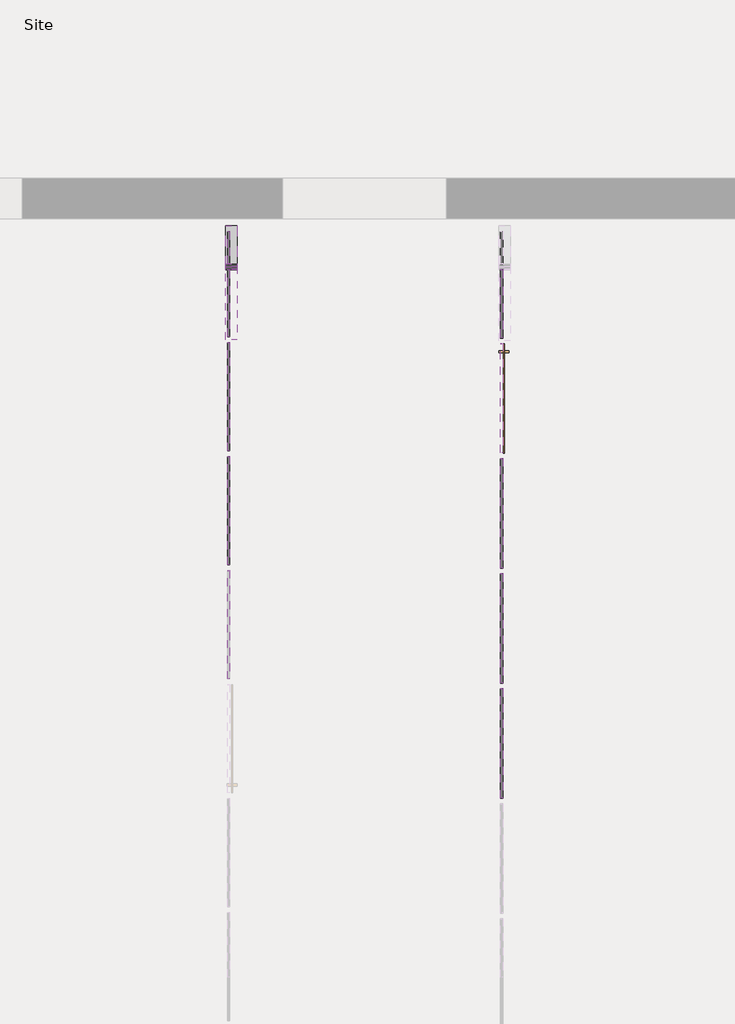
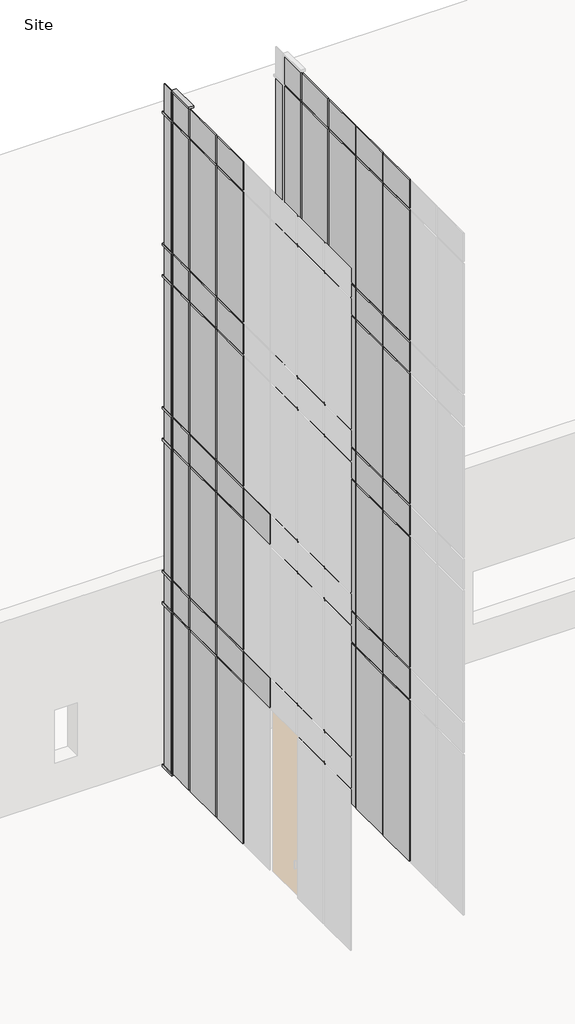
# One storey, part 3 of 4: 80 plates, 17 members, 1 door.
"""IFC4 building model written with IfcOpenShell, lengths in millimetres."""

from ifc_helpers import new_model, si_unit, origin, place, context, project, spatial, transform, mapped, element, save
from components import door_curtain_wall_single_glass_door_curtain_wall_single_55bd0595, member_5d07894b, member_3ba9e939, member_ad567e07, member_7db1855a, member_7227ddca, member_ffd4c858, member_15823cb3, system_panel_glazed_26f8e022, system_panel_glazed_31d10065, system_panel_glazed_ccbaed92, system_panel_glazed_7dca4fa5, system_panel_glazed_2b3d2baa, system_panel_glazed_7e289b92, system_panel_glazed_8fe7ab7d, system_panel_glazed_4fa5cbd7, system_panel_glazed_636dec6d, system_panel_glazed_99ba6c15, system_panel_glazed_35bb093a, system_panel_glazed_f4d1d7f7, system_panel_glazed_6e853645, system_panel_glazed_5cc7900c, system_panel_glazed_032e4dab, system_panel_metal_panel_947f48db, system_panel_metal_panel_e2dbf0ce, system_panel_metal_panel_dcd9a435, system_panel_metal_panel_ab4ce9b6, system_panel_glazed_cc98a0ec

model = new_model("IFC4")

# Units and contexts
model_context = context("Model", 3, world=origin())
ifc_project = project(units=[si_unit("LENGTHUNIT", "METRE", prefix="MILLI")], contexts=[model_context])

# Site, building, storey
site = spatial("IfcSite", under=ifc_project)
building = spatial("IfcBuilding", under=site)
storey = spatial("IfcBuildingStorey", under=building, Name="Site", Elevation=-152.4)

# Door
placement = place(None, origin())
door_curtain_wall_single_glass_door_curtain_wall_single_shape = door_curtain_wall_single_glass_door_curtain_wall_single_55bd0595(model_context)
element("IfcDoor", 1, ObjectType="Door-Curtain-Wall-Single-Glass : Door-Curtain-Wall-Single-Glass", at=placement, inside=storey, context=model_context, shape_type="MappedRepresentation", body=[
    mapped(door_curtain_wall_single_glass_door_curtain_wall_single_shape, transform((10878.8276119, 36162.461889, -88.9), x_axis=(0.0, -1.0, 0.0), y_axis=(1.0, 0.0, 0.0), z_axis=(0.0, 0.0, 1.0))),
])

# Members
member_shape = member_5d07894b(model_context)
element("IfcMember", 2, ObjectType="Rectangular Mullion1 : 2.5\" x 5\" rectangular", at=placement, inside=storey, context=model_context, shape_type="MappedRepresentation", body=[
    mapped(member_shape, transform((7830.8276119, 37629.311889, -88.9), x_axis=(0.0, 1.0, 0.0), y_axis=(1.0, 0.0, 0.0), z_axis=(0.0, 0.0, -1.0))),
])
member_2_shape = member_3ba9e939(model_context)
element("IfcMember", 3, ObjectType="Rectangular Mullion1 : 2.5\" x 5\" rectangular", at=placement, inside=storey, context=model_context, shape_type="MappedRepresentation", body=[
    mapped(member_2_shape, transform((7830.8276119, 37629.311889, 14966.95), x_axis=(0.0, 1.0, 0.0), y_axis=(1.0, 0.0, 0.0), z_axis=(0.0, 0.0, -1.0))),
])
element("IfcMember", 4, ObjectType="Rectangular Mullion1 : 2.5\" x 5\" rectangular", at=placement, inside=storey, context=model_context, shape_type="MappedRepresentation", body=[
    mapped(member_2_shape, transform((7830.8276119, 37629.311889, 10242.55), x_axis=(0.0, 1.0, 0.0), y_axis=(1.0, 0.0, 0.0), z_axis=(0.0, 0.0, -1.0))),
])
element("IfcMember", 5, ObjectType="Rectangular Mullion1 : 2.5\" x 5\" rectangular", at=placement, inside=storey, context=model_context, shape_type="MappedRepresentation", body=[
    mapped(member_2_shape, transform((7830.8276119, 37629.311889, 5518.15), x_axis=(0.0, 1.0, 0.0), y_axis=(1.0, 0.0, 0.0), z_axis=(0.0, 0.0, -1.0))),
])
member_3_shape = member_ad567e07(model_context)
element("IfcMember", 6, ObjectType="Rectangular Mullion1 : 2.5\" x 5\" rectangular", at=placement, inside=storey, context=model_context, shape_type="MappedRepresentation", body=[
    mapped(member_3_shape, transform((7830.8276119, 37629.311889, 18776.95), x_axis=(0.0, 1.0, 0.0), y_axis=(1.0, 0.0, 0.0), z_axis=(0.0, 0.0, -1.0))),
])
member_4_shape = member_7db1855a(model_context)
element("IfcMember", 7, ObjectType="Rectangular Mullion1 : 2.5\" x 5\" rectangular", at=placement, inside=storey, context=model_context, shape_type="MappedRepresentation", body=[
    mapped(member_4_shape, transform((7830.8276119, 37629.311889, 4603.75), x_axis=(0.0, 1.0, 0.0), y_axis=(1.0, 0.0, 0.0), z_axis=(0.0, 0.0, -1.0))),
])
element("IfcMember", 8, ObjectType="Rectangular Mullion1 : 2.5\" x 5\" rectangular", at=placement, inside=storey, context=model_context, shape_type="MappedRepresentation", body=[
    mapped(member_4_shape, transform((7830.8276119, 37629.311889, 9328.15), x_axis=(0.0, 1.0, 0.0), y_axis=(1.0, 0.0, 0.0), z_axis=(0.0, 0.0, -1.0))),
])
element("IfcMember", 9, ObjectType="Rectangular Mullion1 : 2.5\" x 5\" rectangular", at=placement, inside=storey, context=model_context, shape_type="MappedRepresentation", body=[
    mapped(member_4_shape, transform((7830.8276119, 37629.311889, 14052.55), x_axis=(0.0, 1.0, 0.0), y_axis=(1.0, 0.0, 0.0), z_axis=(0.0, 0.0, -1.0))),
])
member_5_shape = member_7227ddca(model_context)
element("IfcMember", 10, ObjectType="Rectangular Mullion1 : 2.5\" x 5\" rectangular", at=placement, inside=storey, context=model_context, shape_type="MappedRepresentation", body=[
    mapped(member_5_shape, transform((7830.8276119, 37629.311889, 19659.6), x_axis=(0.0, 0.0, 1.0), y_axis=(1.0, 0.0, 0.0), z_axis=(0.0, 1.0, 0.0))),
])
member_6_shape = member_ffd4c858(model_context)
element("IfcMember", 11, ObjectType="Rectangular Mullion1 : 2.5\" x 5\" rectangular", at=placement, inside=storey, context=model_context, shape_type="MappedRepresentation", body=[
    mapped(member_6_shape, transform((7830.8276119, 38086.511889, 5486.4), x_axis=(0.0, 0.0, 1.0), y_axis=(1.0, 0.0, 0.0), z_axis=(0.0, 1.0, 0.0))),
])
element("IfcMember", 12, ObjectType="Rectangular Mullion1 : 2.5\" x 5\" rectangular", at=placement, inside=storey, context=model_context, shape_type="MappedRepresentation", body=[
    mapped(member_6_shape, transform((7830.8276119, 38086.511889, 10210.8), x_axis=(0.0, 0.0, 1.0), y_axis=(1.0, 0.0, 0.0), z_axis=(0.0, 1.0, 0.0))),
])
element("IfcMember", 13, ObjectType="Rectangular Mullion1 : 2.5\" x 5\" rectangular", at=placement, inside=storey, context=model_context, shape_type="MappedRepresentation", body=[
    mapped(member_6_shape, transform((7830.8276119, 38086.511889, 14935.2), x_axis=(0.0, 0.0, 1.0), y_axis=(1.0, 0.0, 0.0), z_axis=(0.0, 1.0, 0.0))),
])
element("IfcMember", 14, ObjectType="Rectangular Mullion1 : 2.5\" x 5\" rectangular", at=placement, inside=storey, context=model_context, shape_type="MappedRepresentation", body=[
    mapped(member_6_shape, transform((7830.8276119, 38086.511889, 18745.2), x_axis=(0.0, 0.0, 1.0), y_axis=(1.0, 0.0, 0.0), z_axis=(0.0, 1.0, 0.0))),
])
element("IfcMember", 15, ObjectType="Rectangular Mullion1 : 2.5\" x 5\" rectangular", at=placement, inside=storey, context=model_context, shape_type="MappedRepresentation", body=[
    mapped(member_6_shape, transform((7830.8276119, 38086.511889, 14020.8), x_axis=(0.0, 0.0, 1.0), y_axis=(1.0, 0.0, 0.0), z_axis=(0.0, 1.0, 0.0))),
])
element("IfcMember", 16, ObjectType="Rectangular Mullion1 : 2.5\" x 5\" rectangular", at=placement, inside=storey, context=model_context, shape_type="MappedRepresentation", body=[
    mapped(member_6_shape, transform((7830.8276119, 38086.511889, 9296.4), x_axis=(0.0, 0.0, 1.0), y_axis=(1.0, 0.0, 0.0), z_axis=(0.0, 1.0, 0.0))),
])
element("IfcMember", 17, ObjectType="Rectangular Mullion1 : 2.5\" x 5\" rectangular", at=placement, inside=storey, context=model_context, shape_type="MappedRepresentation", body=[
    mapped(member_6_shape, transform((7830.8276119, 38086.511889, 4572.0), x_axis=(0.0, 0.0, 1.0), y_axis=(1.0, 0.0, 0.0), z_axis=(0.0, 1.0, 0.0))),
])
member_7_shape = member_15823cb3(model_context)
element("IfcMember", 18, ObjectType="Rectangular Mullion1 : 2.5\" x 5\" rectangular", at=placement, inside=storey, context=model_context, shape_type="MappedRepresentation", body=[
    mapped(member_7_shape, transform((7830.8276119, 37629.311889, -152.4), x_axis=(0.0, 0.0, -1.0), y_axis=(1.0, 0.0, 0.0), z_axis=(0.0, -1.0, 0.0))),
])

# Plates
system_panel_glazed_shape = system_panel_glazed_26f8e022(model_context)
element("IfcPlate", 19, ObjectType="System Panel : Glazed", at=placement, inside=storey, context=model_context, shape_type="MappedRepresentation", body=[
    mapped(system_panel_glazed_shape, transform((7830.8276119, 36180.0134434, -88.9), x_axis=(0.0, 1.0, 0.0), y_axis=(-1.0, 0.0, 0.0), z_axis=(0.0, 0.0, 1.0))),
])
element("IfcPlate", 20, ObjectType="System Panel : Glazed", at=placement, inside=storey, context=model_context, shape_type="MappedRepresentation", body=[
    mapped(system_panel_glazed_shape, transform((7830.8276119, 34909.0144797, -88.9), x_axis=(0.0, 1.0, 0.0), y_axis=(-1.0, 0.0, 0.0), z_axis=(0.0, 0.0, 1.0))),
])
system_panel_glazed_2_shape = system_panel_glazed_31d10065(model_context)
element("IfcPlate", 21, ObjectType="System Panel : Glazed", at=placement, inside=storey, context=model_context, shape_type="MappedRepresentation", body=[
    mapped(system_panel_glazed_2_shape, transform((10878.8276119, 33597.061889, -88.9), x_axis=(0.0, 1.0, 0.0), y_axis=(-1.0, 0.0, 0.0), z_axis=(0.0, 0.0, 1.0))),
])
element("IfcPlate", 22, ObjectType="System Panel : Glazed", at=placement, inside=storey, context=model_context, shape_type="MappedRepresentation", body=[
    mapped(system_panel_glazed_2_shape, transform((10878.8276119, 32314.361889, -88.9), x_axis=(0.0, 1.0, 0.0), y_axis=(-1.0, 0.0, 0.0), z_axis=(0.0, 0.0, 1.0))),
])
element("IfcPlate", 23, ObjectType="System Panel : Glazed", at=placement, inside=storey, context=model_context, shape_type="MappedRepresentation", body=[
    mapped(system_panel_glazed_2_shape, transform((10878.8276119, 34879.761889, -88.9), x_axis=(0.0, 1.0, 0.0), y_axis=(-1.0, 0.0, 0.0), z_axis=(0.0, 0.0, 1.0))),
])
system_panel_glazed_3_shape = system_panel_glazed_ccbaed92(model_context)
element("IfcPlate", 24, ObjectType="System Panel : Glazed", at=placement, inside=storey, context=model_context, shape_type="MappedRepresentation", body=[
    mapped(system_panel_glazed_3_shape, transform((7830.8276119, 37222.4124071, -88.9), x_axis=(0.0, 1.0, 0.0), y_axis=(-1.0, 0.0, 0.0), z_axis=(0.0, 0.0, 1.0))),
])
system_panel_glazed_4_shape = system_panel_glazed_7dca4fa5(model_context)
element("IfcPlate", 25, ObjectType="System Panel : Glazed", at=placement, inside=storey, context=model_context, shape_type="MappedRepresentation", body=[
    mapped(system_panel_glazed_4_shape, transform((10878.8276119, 37216.561889, -88.9), x_axis=(0.0, 1.0, 0.0), y_axis=(-1.0, 0.0, 0.0), z_axis=(0.0, 0.0, 1.0))),
])
system_panel_glazed_5_shape = system_panel_glazed_2b3d2baa(model_context)
element("IfcPlate", 26, ObjectType="System Panel : Glazed", at=placement, inside=storey, context=model_context, shape_type="MappedRepresentation", body=[
    mapped(system_panel_glazed_5_shape, transform((10878.8276119, 32314.361889, 14966.95), x_axis=(0.0, 1.0, 0.0), y_axis=(-1.0, 0.0, 0.0), z_axis=(0.0, 0.0, 1.0))),
])
element("IfcPlate", 27, ObjectType="System Panel : Glazed", at=placement, inside=storey, context=model_context, shape_type="MappedRepresentation", body=[
    mapped(system_panel_glazed_5_shape, transform((10878.8276119, 33597.061889, 14966.95), x_axis=(0.0, 1.0, 0.0), y_axis=(-1.0, 0.0, 0.0), z_axis=(0.0, 0.0, 1.0))),
])
element("IfcPlate", 28, ObjectType="System Panel : Glazed", at=placement, inside=storey, context=model_context, shape_type="MappedRepresentation", body=[
    mapped(system_panel_glazed_5_shape, transform((10878.8276119, 34879.761889, 14966.95), x_axis=(0.0, 1.0, 0.0), y_axis=(-1.0, 0.0, 0.0), z_axis=(0.0, 0.0, 1.0))),
])
element("IfcPlate", 29, ObjectType="System Panel : Glazed", at=placement, inside=storey, context=model_context, shape_type="MappedRepresentation", body=[
    mapped(system_panel_glazed_5_shape, transform((10878.8276119, 36162.461889, 14966.95), x_axis=(0.0, 1.0, 0.0), y_axis=(-1.0, 0.0, 0.0), z_axis=(0.0, 0.0, 1.0))),
])
element("IfcPlate", 30, ObjectType="System Panel : Glazed", at=placement, inside=storey, context=model_context, shape_type="MappedRepresentation", body=[
    mapped(system_panel_glazed_5_shape, transform((10878.8276119, 32314.361889, 10242.55), x_axis=(0.0, 1.0, 0.0), y_axis=(-1.0, 0.0, 0.0), z_axis=(0.0, 0.0, 1.0))),
])
element("IfcPlate", 31, ObjectType="System Panel : Glazed", at=placement, inside=storey, context=model_context, shape_type="MappedRepresentation", body=[
    mapped(system_panel_glazed_5_shape, transform((10878.8276119, 33597.061889, 10242.55), x_axis=(0.0, 1.0, 0.0), y_axis=(-1.0, 0.0, 0.0), z_axis=(0.0, 0.0, 1.0))),
])
element("IfcPlate", 32, ObjectType="System Panel : Glazed", at=placement, inside=storey, context=model_context, shape_type="MappedRepresentation", body=[
    mapped(system_panel_glazed_5_shape, transform((10878.8276119, 34879.761889, 10242.55), x_axis=(0.0, 1.0, 0.0), y_axis=(-1.0, 0.0, 0.0), z_axis=(0.0, 0.0, 1.0))),
])
element("IfcPlate", 33, ObjectType="System Panel : Glazed", at=placement, inside=storey, context=model_context, shape_type="MappedRepresentation", body=[
    mapped(system_panel_glazed_5_shape, transform((10878.8276119, 36162.461889, 10242.55), x_axis=(0.0, 1.0, 0.0), y_axis=(-1.0, 0.0, 0.0), z_axis=(0.0, 0.0, 1.0))),
])
element("IfcPlate", 34, ObjectType="System Panel : Glazed", at=placement, inside=storey, context=model_context, shape_type="MappedRepresentation", body=[
    mapped(system_panel_glazed_5_shape, transform((10878.8276119, 32314.361889, 5518.15), x_axis=(0.0, 1.0, 0.0), y_axis=(-1.0, 0.0, 0.0), z_axis=(0.0, 0.0, 1.0))),
])
element("IfcPlate", 35, ObjectType="System Panel : Glazed", at=placement, inside=storey, context=model_context, shape_type="MappedRepresentation", body=[
    mapped(system_panel_glazed_5_shape, transform((10878.8276119, 33597.061889, 5518.15), x_axis=(0.0, 1.0, 0.0), y_axis=(-1.0, 0.0, 0.0), z_axis=(0.0, 0.0, 1.0))),
])
element("IfcPlate", 36, ObjectType="System Panel : Glazed", at=placement, inside=storey, context=model_context, shape_type="MappedRepresentation", body=[
    mapped(system_panel_glazed_5_shape, transform((10878.8276119, 34879.761889, 5518.15), x_axis=(0.0, 1.0, 0.0), y_axis=(-1.0, 0.0, 0.0), z_axis=(0.0, 0.0, 1.0))),
])
element("IfcPlate", 37, ObjectType="System Panel : Glazed", at=placement, inside=storey, context=model_context, shape_type="MappedRepresentation", body=[
    mapped(system_panel_glazed_5_shape, transform((10878.8276119, 36162.461889, 5518.15), x_axis=(0.0, 1.0, 0.0), y_axis=(-1.0, 0.0, 0.0), z_axis=(0.0, 0.0, 1.0))),
])
system_panel_glazed_6_shape = system_panel_glazed_7e289b92(model_context)
element("IfcPlate", 38, ObjectType="System Panel : Glazed", at=placement, inside=storey, context=model_context, shape_type="MappedRepresentation", body=[
    mapped(system_panel_glazed_6_shape, transform((10878.8276119, 37216.561889, 14966.95), x_axis=(0.0, 1.0, 0.0), y_axis=(-1.0, 0.0, 0.0), z_axis=(0.0, 0.0, 1.0))),
])
element("IfcPlate", 39, ObjectType="System Panel : Glazed", at=placement, inside=storey, context=model_context, shape_type="MappedRepresentation", body=[
    mapped(system_panel_glazed_6_shape, transform((10878.8276119, 37216.561889, 10242.55), x_axis=(0.0, 1.0, 0.0), y_axis=(-1.0, 0.0, 0.0), z_axis=(0.0, 0.0, 1.0))),
])
element("IfcPlate", 40, ObjectType="System Panel : Glazed", at=placement, inside=storey, context=model_context, shape_type="MappedRepresentation", body=[
    mapped(system_panel_glazed_6_shape, transform((10878.8276119, 37216.561889, 5518.15), x_axis=(0.0, 1.0, 0.0), y_axis=(-1.0, 0.0, 0.0), z_axis=(0.0, 0.0, 1.0))),
])
system_panel_glazed_7_shape = system_panel_glazed_8fe7ab7d(model_context)
element("IfcPlate", 41, ObjectType="System Panel : Glazed", at=placement, inside=storey, context=model_context, shape_type="MappedRepresentation", body=[
    mapped(system_panel_glazed_7_shape, transform((10878.8276119, 32314.361889, 9328.15), x_axis=(0.0, 1.0, 0.0), y_axis=(-1.0, 0.0, 0.0), z_axis=(0.0, 0.0, 1.0))),
])
element("IfcPlate", 42, ObjectType="System Panel : Glazed", at=placement, inside=storey, context=model_context, shape_type="MappedRepresentation", body=[
    mapped(system_panel_glazed_7_shape, transform((10878.8276119, 33597.061889, 9328.15), x_axis=(0.0, 1.0, 0.0), y_axis=(-1.0, 0.0, 0.0), z_axis=(0.0, 0.0, 1.0))),
])
element("IfcPlate", 43, ObjectType="System Panel : Glazed", at=placement, inside=storey, context=model_context, shape_type="MappedRepresentation", body=[
    mapped(system_panel_glazed_7_shape, transform((10878.8276119, 34879.761889, 9328.15), x_axis=(0.0, 1.0, 0.0), y_axis=(-1.0, 0.0, 0.0), z_axis=(0.0, 0.0, 1.0))),
])
element("IfcPlate", 44, ObjectType="System Panel : Glazed", at=placement, inside=storey, context=model_context, shape_type="MappedRepresentation", body=[
    mapped(system_panel_glazed_7_shape, transform((10878.8276119, 36162.461889, 9328.15), x_axis=(0.0, 1.0, 0.0), y_axis=(-1.0, 0.0, 0.0), z_axis=(0.0, 0.0, 1.0))),
])
element("IfcPlate", 45, ObjectType="System Panel : Glazed", at=placement, inside=storey, context=model_context, shape_type="MappedRepresentation", body=[
    mapped(system_panel_glazed_7_shape, transform((10878.8276119, 32314.361889, 4603.75), x_axis=(0.0, 1.0, 0.0), y_axis=(-1.0, 0.0, 0.0), z_axis=(0.0, 0.0, 1.0))),
])
element("IfcPlate", 46, ObjectType="System Panel : Glazed", at=placement, inside=storey, context=model_context, shape_type="MappedRepresentation", body=[
    mapped(system_panel_glazed_7_shape, transform((10878.8276119, 33597.061889, 4603.75), x_axis=(0.0, 1.0, 0.0), y_axis=(-1.0, 0.0, 0.0), z_axis=(0.0, 0.0, 1.0))),
])
element("IfcPlate", 47, ObjectType="System Panel : Glazed", at=placement, inside=storey, context=model_context, shape_type="MappedRepresentation", body=[
    mapped(system_panel_glazed_7_shape, transform((10878.8276119, 34879.761889, 4603.75), x_axis=(0.0, 1.0, 0.0), y_axis=(-1.0, 0.0, 0.0), z_axis=(0.0, 0.0, 1.0))),
])
element("IfcPlate", 48, ObjectType="System Panel : Glazed", at=placement, inside=storey, context=model_context, shape_type="MappedRepresentation", body=[
    mapped(system_panel_glazed_7_shape, transform((10878.8276119, 36162.461889, 4603.75), x_axis=(0.0, 1.0, 0.0), y_axis=(-1.0, 0.0, 0.0), z_axis=(0.0, 0.0, 1.0))),
])
element("IfcPlate", 49, ObjectType="System Panel : Glazed", at=placement, inside=storey, context=model_context, shape_type="MappedRepresentation", body=[
    mapped(system_panel_glazed_7_shape, transform((10878.8276119, 32314.361889, 14052.55), x_axis=(0.0, 1.0, 0.0), y_axis=(-1.0, 0.0, 0.0), z_axis=(0.0, 0.0, 1.0))),
])
element("IfcPlate", 50, ObjectType="System Panel : Glazed", at=placement, inside=storey, context=model_context, shape_type="MappedRepresentation", body=[
    mapped(system_panel_glazed_7_shape, transform((10878.8276119, 33597.061889, 14052.55), x_axis=(0.0, 1.0, 0.0), y_axis=(-1.0, 0.0, 0.0), z_axis=(0.0, 0.0, 1.0))),
])
element("IfcPlate", 51, ObjectType="System Panel : Glazed", at=placement, inside=storey, context=model_context, shape_type="MappedRepresentation", body=[
    mapped(system_panel_glazed_7_shape, transform((10878.8276119, 34879.761889, 14052.55), x_axis=(0.0, 1.0, 0.0), y_axis=(-1.0, 0.0, 0.0), z_axis=(0.0, 0.0, 1.0))),
])
element("IfcPlate", 52, ObjectType="System Panel : Glazed", at=placement, inside=storey, context=model_context, shape_type="MappedRepresentation", body=[
    mapped(system_panel_glazed_7_shape, transform((10878.8276119, 36162.461889, 14052.55), x_axis=(0.0, 1.0, 0.0), y_axis=(-1.0, 0.0, 0.0), z_axis=(0.0, 0.0, 1.0))),
])
system_panel_glazed_8_shape = system_panel_glazed_4fa5cbd7(model_context)
element("IfcPlate", 53, ObjectType="System Panel : Glazed", at=placement, inside=storey, context=model_context, shape_type="MappedRepresentation", body=[
    mapped(system_panel_glazed_8_shape, transform((10878.8276119, 37216.561889, 9328.15), x_axis=(0.0, 1.0, 0.0), y_axis=(-1.0, 0.0, 0.0), z_axis=(0.0, 0.0, 1.0))),
])
element("IfcPlate", 54, ObjectType="System Panel : Glazed", at=placement, inside=storey, context=model_context, shape_type="MappedRepresentation", body=[
    mapped(system_panel_glazed_8_shape, transform((10878.8276119, 37216.561889, 4603.75), x_axis=(0.0, 1.0, 0.0), y_axis=(-1.0, 0.0, 0.0), z_axis=(0.0, 0.0, 1.0))),
])
element("IfcPlate", 55, ObjectType="System Panel : Glazed", at=placement, inside=storey, context=model_context, shape_type="MappedRepresentation", body=[
    mapped(system_panel_glazed_8_shape, transform((10878.8276119, 37216.561889, 14052.55), x_axis=(0.0, 1.0, 0.0), y_axis=(-1.0, 0.0, 0.0), z_axis=(0.0, 0.0, 1.0))),
])
system_panel_glazed_9_shape = system_panel_glazed_636dec6d(model_context)
element("IfcPlate", 56, ObjectType="System Panel : Glazed", at=placement, inside=storey, context=model_context, shape_type="MappedRepresentation", body=[
    mapped(system_panel_glazed_9_shape, transform((10878.8276119, 32314.361889, 18776.95), x_axis=(0.0, 1.0, 0.0), y_axis=(-1.0, 0.0, 0.0), z_axis=(0.0, 0.0, 1.0))),
])
element("IfcPlate", 57, ObjectType="System Panel : Glazed", at=placement, inside=storey, context=model_context, shape_type="MappedRepresentation", body=[
    mapped(system_panel_glazed_9_shape, transform((10878.8276119, 33597.061889, 18776.95), x_axis=(0.0, 1.0, 0.0), y_axis=(-1.0, 0.0, 0.0), z_axis=(0.0, 0.0, 1.0))),
])
element("IfcPlate", 58, ObjectType="System Panel : Glazed", at=placement, inside=storey, context=model_context, shape_type="MappedRepresentation", body=[
    mapped(system_panel_glazed_9_shape, transform((10878.8276119, 34879.761889, 18776.95), x_axis=(0.0, 1.0, 0.0), y_axis=(-1.0, 0.0, 0.0), z_axis=(0.0, 0.0, 1.0))),
])
element("IfcPlate", 59, ObjectType="System Panel : Glazed", at=placement, inside=storey, context=model_context, shape_type="MappedRepresentation", body=[
    mapped(system_panel_glazed_9_shape, transform((10878.8276119, 36162.461889, 18776.95), x_axis=(0.0, 1.0, 0.0), y_axis=(-1.0, 0.0, 0.0), z_axis=(0.0, 0.0, 1.0))),
])
system_panel_glazed_10_shape = system_panel_glazed_99ba6c15(model_context)
element("IfcPlate", 60, ObjectType="System Panel : Glazed", at=placement, inside=storey, context=model_context, shape_type="MappedRepresentation", body=[
    mapped(system_panel_glazed_10_shape, transform((10878.8276119, 37216.561889, 18776.95), x_axis=(0.0, 1.0, 0.0), y_axis=(-1.0, 0.0, 0.0), z_axis=(0.0, 0.0, 1.0))),
])
system_panel_glazed_11_shape = system_panel_glazed_35bb093a(model_context)
element("IfcPlate", 61, ObjectType="System Panel : Glazed", at=placement, inside=storey, context=model_context, shape_type="MappedRepresentation", body=[
    mapped(system_panel_glazed_11_shape, transform((7830.8276119, 34909.0144797, 5518.15), x_axis=(0.0, 1.0, 0.0), y_axis=(-1.0, 0.0, 0.0), z_axis=(0.0, 0.0, 1.0))),
])
element("IfcPlate", 62, ObjectType="System Panel : Glazed", at=placement, inside=storey, context=model_context, shape_type="MappedRepresentation", body=[
    mapped(system_panel_glazed_11_shape, transform((7830.8276119, 36180.0134434, 5518.15), x_axis=(0.0, 1.0, 0.0), y_axis=(-1.0, 0.0, 0.0), z_axis=(0.0, 0.0, 1.0))),
])
element("IfcPlate", 63, ObjectType="System Panel : Glazed", at=placement, inside=storey, context=model_context, shape_type="MappedRepresentation", body=[
    mapped(system_panel_glazed_11_shape, transform((7830.8276119, 34909.0144797, 10242.55), x_axis=(0.0, 1.0, 0.0), y_axis=(-1.0, 0.0, 0.0), z_axis=(0.0, 0.0, 1.0))),
])
element("IfcPlate", 64, ObjectType="System Panel : Glazed", at=placement, inside=storey, context=model_context, shape_type="MappedRepresentation", body=[
    mapped(system_panel_glazed_11_shape, transform((7830.8276119, 36180.0134434, 10242.55), x_axis=(0.0, 1.0, 0.0), y_axis=(-1.0, 0.0, 0.0), z_axis=(0.0, 0.0, 1.0))),
])
element("IfcPlate", 65, ObjectType="System Panel : Glazed", at=placement, inside=storey, context=model_context, shape_type="MappedRepresentation", body=[
    mapped(system_panel_glazed_11_shape, transform((7830.8276119, 34909.0144797, 14966.95), x_axis=(0.0, 1.0, 0.0), y_axis=(-1.0, 0.0, 0.0), z_axis=(0.0, 0.0, 1.0))),
])
element("IfcPlate", 66, ObjectType="System Panel : Glazed", at=placement, inside=storey, context=model_context, shape_type="MappedRepresentation", body=[
    mapped(system_panel_glazed_11_shape, transform((7830.8276119, 36180.0134434, 14966.95), x_axis=(0.0, 1.0, 0.0), y_axis=(-1.0, 0.0, 0.0), z_axis=(0.0, 0.0, 1.0))),
])
system_panel_glazed_12_shape = system_panel_glazed_f4d1d7f7(model_context)
element("IfcPlate", 67, ObjectType="System Panel : Glazed", at=placement, inside=storey, context=model_context, shape_type="MappedRepresentation", body=[
    mapped(system_panel_glazed_12_shape, transform((7830.8276119, 37222.4124071, 5518.15), x_axis=(0.0, 1.0, 0.0), y_axis=(-1.0, 0.0, 0.0), z_axis=(0.0, 0.0, 1.0))),
])
element("IfcPlate", 68, ObjectType="System Panel : Glazed", at=placement, inside=storey, context=model_context, shape_type="MappedRepresentation", body=[
    mapped(system_panel_glazed_12_shape, transform((7830.8276119, 37222.4124071, 10242.55), x_axis=(0.0, 1.0, 0.0), y_axis=(-1.0, 0.0, 0.0), z_axis=(0.0, 0.0, 1.0))),
])
element("IfcPlate", 69, ObjectType="System Panel : Glazed", at=placement, inside=storey, context=model_context, shape_type="MappedRepresentation", body=[
    mapped(system_panel_glazed_12_shape, transform((7830.8276119, 37222.4124071, 14966.95), x_axis=(0.0, 1.0, 0.0), y_axis=(-1.0, 0.0, 0.0), z_axis=(0.0, 0.0, 1.0))),
])
system_panel_glazed_13_shape = system_panel_glazed_6e853645(model_context)
element("IfcPlate", 70, ObjectType="System Panel : Glazed", at=placement, inside=storey, context=model_context, shape_type="MappedRepresentation", body=[
    mapped(system_panel_glazed_13_shape, transform((10878.8276119, 37842.036889, -88.9), x_axis=(0.0, 1.0, 0.0), y_axis=(-1.0, 0.0, 0.0), z_axis=(0.0, 0.0, 1.0))),
])
system_panel_glazed_14_shape = system_panel_glazed_5cc7900c(model_context)
element("IfcPlate", 71, ObjectType="System Panel : Glazed", at=placement, inside=storey, context=model_context, shape_type="MappedRepresentation", body=[
    mapped(system_panel_glazed_14_shape, transform((10878.8276119, 37842.036889, 4603.75), x_axis=(0.0, 1.0, 0.0), y_axis=(-1.0, 0.0, 0.0), z_axis=(0.0, 0.0, 1.0))),
])
element("IfcPlate", 72, ObjectType="System Panel : Glazed", at=placement, inside=storey, context=model_context, shape_type="MappedRepresentation", body=[
    mapped(system_panel_glazed_14_shape, transform((10878.8276119, 37842.036889, 9328.15), x_axis=(0.0, 1.0, 0.0), y_axis=(-1.0, 0.0, 0.0), z_axis=(0.0, 0.0, 1.0))),
])
element("IfcPlate", 73, ObjectType="System Panel : Glazed", at=placement, inside=storey, context=model_context, shape_type="MappedRepresentation", body=[
    mapped(system_panel_glazed_14_shape, transform((10878.8276119, 37842.036889, 14052.55), x_axis=(0.0, 1.0, 0.0), y_axis=(-1.0, 0.0, 0.0), z_axis=(0.0, 0.0, 1.0))),
])
system_panel_glazed_15_shape = system_panel_glazed_032e4dab(model_context)
element("IfcPlate", 74, ObjectType="System Panel : Glazed", at=placement, inside=storey, context=model_context, shape_type="MappedRepresentation", body=[
    mapped(system_panel_glazed_15_shape, transform((10878.8276119, 37842.036889, 5518.15), x_axis=(0.0, 1.0, 0.0), y_axis=(-1.0, 0.0, 0.0), z_axis=(0.0, 0.0, 1.0))),
])
element("IfcPlate", 75, ObjectType="System Panel : Glazed", at=placement, inside=storey, context=model_context, shape_type="MappedRepresentation", body=[
    mapped(system_panel_glazed_15_shape, transform((10878.8276119, 37842.036889, 10242.55), x_axis=(0.0, 1.0, 0.0), y_axis=(-1.0, 0.0, 0.0), z_axis=(0.0, 0.0, 1.0))),
])
element("IfcPlate", 76, ObjectType="System Panel : Glazed", at=placement, inside=storey, context=model_context, shape_type="MappedRepresentation", body=[
    mapped(system_panel_glazed_15_shape, transform((10878.8276119, 37842.036889, 14966.95), x_axis=(0.0, 1.0, 0.0), y_axis=(-1.0, 0.0, 0.0), z_axis=(0.0, 0.0, 1.0))),
])
system_panel_metal_panel_shape = system_panel_metal_panel_947f48db(model_context)
element("IfcPlate", 77, ObjectType="System Panel : Metal Panel", at=placement, inside=storey, context=model_context, shape_type="MappedRepresentation", body=[
    mapped(system_panel_metal_panel_shape, transform((7830.8276119, 34909.0144797, 18776.95), x_axis=(0.0, 1.0, 0.0), y_axis=(-1.0, 0.0, 0.0), z_axis=(0.0, 0.0, 1.0))),
])
element("IfcPlate", 78, ObjectType="System Panel : Metal Panel", at=placement, inside=storey, context=model_context, shape_type="MappedRepresentation", body=[
    mapped(system_panel_metal_panel_shape, transform((7830.8276119, 36180.0134434, 18776.95), x_axis=(0.0, 1.0, 0.0), y_axis=(-1.0, 0.0, 0.0), z_axis=(0.0, 0.0, 1.0))),
])
system_panel_metal_panel_2_shape = system_panel_metal_panel_e2dbf0ce(model_context)
element("IfcPlate", 79, ObjectType="System Panel : Metal Panel", at=placement, inside=storey, context=model_context, shape_type="MappedRepresentation", body=[
    mapped(system_panel_metal_panel_2_shape, transform((7830.8276119, 37222.4124071, 18776.95), x_axis=(0.0, 1.0, 0.0), y_axis=(-1.0, 0.0, 0.0), z_axis=(0.0, 0.0, 1.0))),
])
system_panel_metal_panel_3_shape = system_panel_metal_panel_dcd9a435(model_context)
element("IfcPlate", 80, ObjectType="System Panel : Metal Panel", at=placement, inside=storey, context=model_context, shape_type="MappedRepresentation", body=[
    mapped(system_panel_metal_panel_3_shape, transform((7830.8276119, 34909.0144797, 14052.55), x_axis=(0.0, 1.0, 0.0), y_axis=(-1.0, 0.0, 0.0), z_axis=(0.0, 0.0, 1.0))),
])
element("IfcPlate", 81, ObjectType="System Panel : Metal Panel", at=placement, inside=storey, context=model_context, shape_type="MappedRepresentation", body=[
    mapped(system_panel_metal_panel_3_shape, transform((7830.8276119, 36180.0134434, 14052.55), x_axis=(0.0, 1.0, 0.0), y_axis=(-1.0, 0.0, 0.0), z_axis=(0.0, 0.0, 1.0))),
])
element("IfcPlate", 82, ObjectType="System Panel : Metal Panel", at=placement, inside=storey, context=model_context, shape_type="MappedRepresentation", body=[
    mapped(system_panel_metal_panel_3_shape, transform((7830.8276119, 33638.015516, 9328.15), x_axis=(0.0, 1.0, 0.0), y_axis=(-1.0, 0.0, 0.0), z_axis=(0.0, 0.0, 1.0))),
])
element("IfcPlate", 83, ObjectType="System Panel : Metal Panel", at=placement, inside=storey, context=model_context, shape_type="MappedRepresentation", body=[
    mapped(system_panel_metal_panel_3_shape, transform((7830.8276119, 34909.0144797, 9328.15), x_axis=(0.0, 1.0, 0.0), y_axis=(-1.0, 0.0, 0.0), z_axis=(0.0, 0.0, 1.0))),
])
element("IfcPlate", 84, ObjectType="System Panel : Metal Panel", at=placement, inside=storey, context=model_context, shape_type="MappedRepresentation", body=[
    mapped(system_panel_metal_panel_3_shape, transform((7830.8276119, 36180.0134434, 9328.15), x_axis=(0.0, 1.0, 0.0), y_axis=(-1.0, 0.0, 0.0), z_axis=(0.0, 0.0, 1.0))),
])
element("IfcPlate", 85, ObjectType="System Panel : Metal Panel", at=placement, inside=storey, context=model_context, shape_type="MappedRepresentation", body=[
    mapped(system_panel_metal_panel_3_shape, transform((7830.8276119, 33638.015516, 4603.75), x_axis=(0.0, 1.0, 0.0), y_axis=(-1.0, 0.0, 0.0), z_axis=(0.0, 0.0, 1.0))),
])
element("IfcPlate", 86, ObjectType="System Panel : Metal Panel", at=placement, inside=storey, context=model_context, shape_type="MappedRepresentation", body=[
    mapped(system_panel_metal_panel_3_shape, transform((7830.8276119, 34909.0144797, 4603.75), x_axis=(0.0, 1.0, 0.0), y_axis=(-1.0, 0.0, 0.0), z_axis=(0.0, 0.0, 1.0))),
])
element("IfcPlate", 87, ObjectType="System Panel : Metal Panel", at=placement, inside=storey, context=model_context, shape_type="MappedRepresentation", body=[
    mapped(system_panel_metal_panel_3_shape, transform((7830.8276119, 36180.0134434, 4603.75), x_axis=(0.0, 1.0, 0.0), y_axis=(-1.0, 0.0, 0.0), z_axis=(0.0, 0.0, 1.0))),
])
system_panel_metal_panel_4_shape = system_panel_metal_panel_ab4ce9b6(model_context)
element("IfcPlate", 88, ObjectType="System Panel : Metal Panel", at=placement, inside=storey, context=model_context, shape_type="MappedRepresentation", body=[
    mapped(system_panel_metal_panel_4_shape, transform((7830.8276119, 37222.4124071, 14052.55), x_axis=(0.0, 1.0, 0.0), y_axis=(-1.0, 0.0, 0.0), z_axis=(0.0, 0.0, 1.0))),
])
element("IfcPlate", 89, ObjectType="System Panel : Metal Panel", at=placement, inside=storey, context=model_context, shape_type="MappedRepresentation", body=[
    mapped(system_panel_metal_panel_4_shape, transform((7830.8276119, 37222.4124071, 9328.15), x_axis=(0.0, 1.0, 0.0), y_axis=(-1.0, 0.0, 0.0), z_axis=(0.0, 0.0, 1.0))),
])
element("IfcPlate", 90, ObjectType="System Panel : Metal Panel", at=placement, inside=storey, context=model_context, shape_type="MappedRepresentation", body=[
    mapped(system_panel_metal_panel_4_shape, transform((7830.8276119, 37222.4124071, 4603.75), x_axis=(0.0, 1.0, 0.0), y_axis=(-1.0, 0.0, 0.0), z_axis=(0.0, 0.0, 1.0))),
])
element("IfcPlate", 91, ObjectType="System Panel : Metal Panel", at=placement, inside=storey, context=model_context, shape_type="MappedRepresentation", body=[
    mapped(system_panel_glazed_13_shape, transform((7830.8276119, 37842.036889, -88.9), x_axis=(0.0, 1.0, 0.0), y_axis=(-1.0, 0.0, 0.0), z_axis=(0.0, 0.0, 1.0))),
])
element("IfcPlate", 92, ObjectType="System Panel : Metal Panel", at=placement, inside=storey, context=model_context, shape_type="MappedRepresentation", body=[
    mapped(system_panel_glazed_14_shape, transform((7830.8276119, 37842.036889, 4603.75), x_axis=(0.0, 1.0, 0.0), y_axis=(-1.0, 0.0, 0.0), z_axis=(0.0, 0.0, 1.0))),
])
element("IfcPlate", 93, ObjectType="System Panel : Metal Panel", at=placement, inside=storey, context=model_context, shape_type="MappedRepresentation", body=[
    mapped(system_panel_glazed_14_shape, transform((7830.8276119, 37842.036889, 9328.15), x_axis=(0.0, 1.0, 0.0), y_axis=(-1.0, 0.0, 0.0), z_axis=(0.0, 0.0, 1.0))),
])
element("IfcPlate", 94, ObjectType="System Panel : Metal Panel", at=placement, inside=storey, context=model_context, shape_type="MappedRepresentation", body=[
    mapped(system_panel_glazed_14_shape, transform((7830.8276119, 37842.036889, 14052.55), x_axis=(0.0, 1.0, 0.0), y_axis=(-1.0, 0.0, 0.0), z_axis=(0.0, 0.0, 1.0))),
])
element("IfcPlate", 95, ObjectType="System Panel : Metal Panel", at=placement, inside=storey, context=model_context, shape_type="MappedRepresentation", body=[
    mapped(system_panel_glazed_15_shape, transform((7830.8276119, 37842.036889, 5518.15), x_axis=(0.0, 1.0, 0.0), y_axis=(-1.0, 0.0, 0.0), z_axis=(0.0, 0.0, 1.0))),
])
element("IfcPlate", 96, ObjectType="System Panel : Metal Panel", at=placement, inside=storey, context=model_context, shape_type="MappedRepresentation", body=[
    mapped(system_panel_glazed_15_shape, transform((7830.8276119, 37842.036889, 10242.55), x_axis=(0.0, 1.0, 0.0), y_axis=(-1.0, 0.0, 0.0), z_axis=(0.0, 0.0, 1.0))),
])
element("IfcPlate", 97, ObjectType="System Panel : Metal Panel", at=placement, inside=storey, context=model_context, shape_type="MappedRepresentation", body=[
    mapped(system_panel_glazed_15_shape, transform((7830.8276119, 37842.036889, 14966.95), x_axis=(0.0, 1.0, 0.0), y_axis=(-1.0, 0.0, 0.0), z_axis=(0.0, 0.0, 1.0))),
])
system_panel_glazed_16_shape = system_panel_glazed_cc98a0ec(model_context)
element("IfcPlate", 98, ObjectType="System Panel : Metal Panel", at=placement, inside=storey, context=model_context, shape_type="MappedRepresentation", body=[
    mapped(system_panel_glazed_16_shape, transform((7830.8276119, 37842.036889, 18776.95), x_axis=(0.0, 1.0, 0.0), y_axis=(-1.0, 0.0, 0.0), z_axis=(0.0, 0.0, 1.0))),
])

save(model, "model.ifc")
